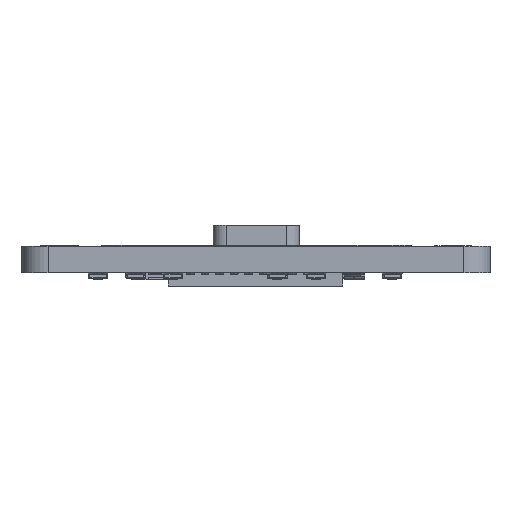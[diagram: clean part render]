
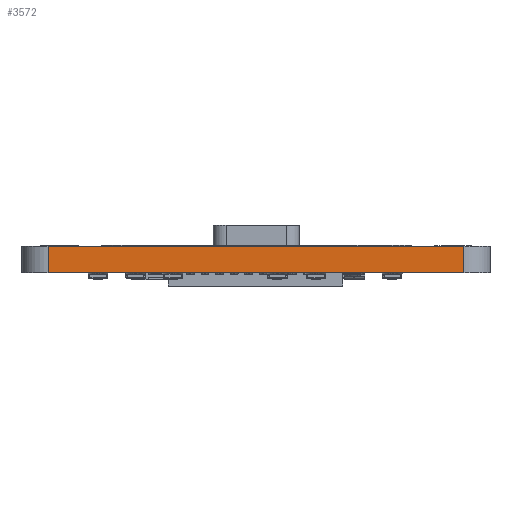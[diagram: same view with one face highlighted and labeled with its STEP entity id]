
A CAD part, front view. The second image highlights one B-rep face of the part: STEP entity #3572.
In plain terms, the highlighted planar face has unit normal (0, -1, 0).
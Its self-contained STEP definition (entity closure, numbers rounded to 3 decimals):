
#3572=ADVANCED_FACE('',(#7896),#70047,.T.);
#7896=FACE_OUTER_BOUND('',#12220,.T.);
#12220=EDGE_LOOP('',(#16812,#16813,#16814,#16815));
#16812=ORIENTED_EDGE('',*,*,#38225,.F.);
#16813=ORIENTED_EDGE('',*,*,#38233,.F.);
#16814=ORIENTED_EDGE('',*,*,#38224,.T.);
#16815=ORIENTED_EDGE('',*,*,#38232,.F.);
#38224=EDGE_CURVE('',#60395,#60394,#55620,.T.);
#38225=EDGE_CURVE('',#60397,#60396,#55621,.T.);
#38232=EDGE_CURVE('',#60396,#60394,#55628,.T.);
#38233=EDGE_CURVE('',#60395,#60397,#55629,.T.);
#55620=B_SPLINE_CURVE_WITH_KNOTS('',1,(#74513,#74514),.UNSPECIFIED.,.F.,
 .F.,(2,2),(1.,17.),.UNSPECIFIED.);
#55621=B_SPLINE_CURVE_WITH_KNOTS('',1,(#74515,#74516),.UNSPECIFIED.,.F.,
 .F.,(2,2),(1.,17.),.UNSPECIFIED.);
#55628=B_SPLINE_CURVE_WITH_KNOTS('',1,(#74529,#74530),.UNSPECIFIED.,.F.,
 .F.,(2,2),(0.,1.),.UNSPECIFIED.);
#55629=B_SPLINE_CURVE_WITH_KNOTS('',1,(#74531,#74532),.UNSPECIFIED.,.F.,
 .F.,(2,2),(0.,1.),.UNSPECIFIED.);
#60394=VERTEX_POINT('',#74353);
#60395=VERTEX_POINT('',#74354);
#60396=VERTEX_POINT('',#74355);
#60397=VERTEX_POINT('',#74356);
#70047=PLANE('',#71423);
#71423=AXIS2_PLACEMENT_3D('',#74144,#72783,$);
#72783=DIRECTION('',(0.,-1.,0.));
#74144=CARTESIAN_POINT('',(9.,-11.,-0.017));
#74353=CARTESIAN_POINT('',(-8.,-11.,-0.017));
#74354=CARTESIAN_POINT('',(8.,-11.,-0.017));
#74355=CARTESIAN_POINT('',(-8.,-11.,-1.017));
#74356=CARTESIAN_POINT('',(8.,-11.,-1.017));
#74513=CARTESIAN_POINT('',(8.,-11.,-0.017));
#74514=CARTESIAN_POINT('',(-8.,-11.,-0.017));
#74515=CARTESIAN_POINT('',(8.,-11.,-1.017));
#74516=CARTESIAN_POINT('',(-8.,-11.,-1.017));
#74529=CARTESIAN_POINT('',(-8.,-11.,-1.017));
#74530=CARTESIAN_POINT('',(-8.,-11.,-0.017));
#74531=CARTESIAN_POINT('',(8.,-11.,-0.017));
#74532=CARTESIAN_POINT('',(8.,-11.,-1.017));
